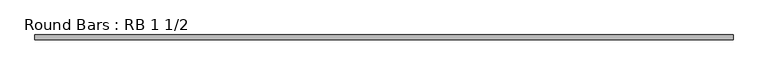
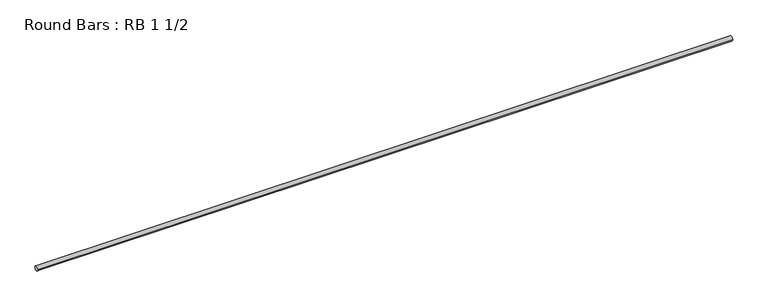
"""IFC4 building model written with IfcOpenShell, lengths in millimetres: member geometry, Round Bars : RB 1 1/2."""

from ifc_helpers import new_model, si_unit, point, frame, origin, origin_2d, place, context, project, spatial, circle_curve, trimmed, segment, composite_curve, outline, extrude, source, transform, mapped, element, save


def round_bars_rb_1_1_2_33c0236c(model_context):
    return source(origin(), model_context, "Body", "SweptSolid", [
        extrude(outline(composite_curve([segment(trimmed(circle_curve(origin_2d(), 19.05), [point((19.05, 0.0))], [point((-19.05, 0.0))], False, "CARTESIAN"), True, "CONTINUOUS"), segment(trimmed(circle_curve(origin_2d(), 19.05), [point((-19.05, 0.0))], [point((19.05, 0.0))], False, "CARTESIAN"), True, "CONTINUOUS")], self_intersect=False)), frame((-2827.3629313, 0.0, 0.0), z_axis=(1.0, 0.0, 0.0), x_axis=(0.0, 1.0, 0.0)), (0.0, 0.0, 1.0), 5654.7258626),
    ])


if __name__ == "__main__":
    model = new_model("IFC4")
    model_context = context("Model", 3, world=origin())
    ifc_project = project(units=[si_unit("LENGTHUNIT", "METRE", prefix="MILLI")], contexts=[model_context])
    site = spatial("IfcSite", under=ifc_project)
    building = spatial("IfcBuilding", under=site)
    placement = place(None, origin())
    round_bars_rb_1_1_2_shape = round_bars_rb_1_1_2_33c0236c(model_context)
    element("IfcMember", 1, ObjectType="Round Bars : RB 1 1/2", at=placement, inside=building, context=model_context, shape_type="MappedRepresentation", body=[
        mapped(round_bars_rb_1_1_2_shape, transform((0.0, 0.0, 0.0), x_axis=(1.0, 0.0, 0.0), y_axis=(0.0, 1.0, 0.0), z_axis=(0.0, 0.0, 1.0))),
    ])
    save(model, "model.ifc")
